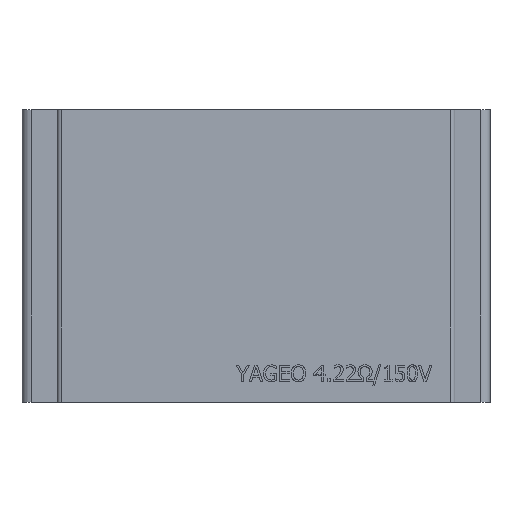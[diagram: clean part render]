
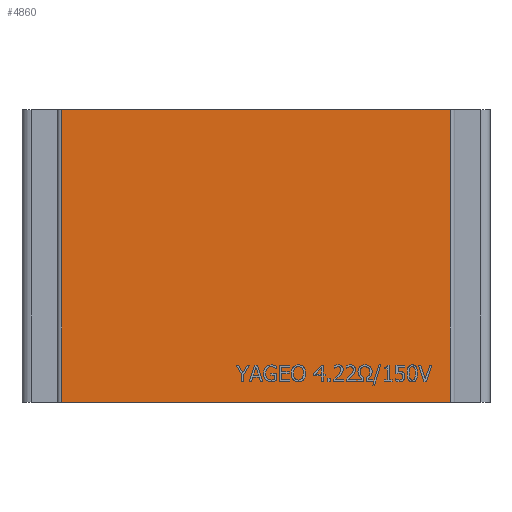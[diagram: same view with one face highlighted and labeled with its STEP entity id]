
A CAD part, top view. The second image highlights one B-rep face of the part: STEP entity #4860.
In plain terms, the highlighted planar face has unit normal (0, 0, 1).
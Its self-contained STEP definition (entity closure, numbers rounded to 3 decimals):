
#392=PLANE('',#5189);
#579=FACE_OUTER_BOUND('',#858,.T.);
#858=EDGE_LOOP('',(#3599,#3600,#3601,#3602));
#1169=LINE('',#6501,#1680);
#1173=LINE('',#6510,#1684);
#1181=LINE('',#6529,#1692);
#1193=LINE('',#6553,#1704);
#1680=VECTOR('',#5542,1.25);
#1684=VECTOR('',#5550,1.66);
#1692=VECTOR('',#5564,1.25);
#1704=VECTOR('',#5590,1.66);
#2210=VERTEX_POINT('',#6494);
#2213=VERTEX_POINT('',#6499);
#2216=VERTEX_POINT('',#6509);
#2223=VERTEX_POINT('',#6525);
#2727=EDGE_CURVE('',#2213,#2210,#1169,.T.);
#2731=EDGE_CURVE('',#2216,#2210,#1173,.T.);
#2741=EDGE_CURVE('',#2216,#2223,#1181,.T.);
#2753=EDGE_CURVE('',#2213,#2223,#1193,.T.);
#3599=ORIENTED_EDGE('',*,*,#2727,.F.);
#3600=ORIENTED_EDGE('',*,*,#2753,.T.);
#3601=ORIENTED_EDGE('',*,*,#2741,.F.);
#3602=ORIENTED_EDGE('',*,*,#2731,.T.);
#4860=ADVANCED_FACE('',(#579),#392,.T.);
#5189=AXIS2_PLACEMENT_3D('',#6554,#5591,#5592);
#5542=DIRECTION('',(0.,-1.,0.));
#5550=DIRECTION('',(1.,0.,0.));
#5564=DIRECTION('',(0.,1.,0.));
#5590=DIRECTION('',(-1.,0.,0.));
#5591=DIRECTION('center_axis',(0.,0.,1.));
#5592=DIRECTION('ref_axis',(1.,0.,0.));
#6494=CARTESIAN_POINT('',(0.83,-0.625,0.6));
#6499=CARTESIAN_POINT('',(0.83,0.625,0.6));
#6501=CARTESIAN_POINT('',(0.83,-0.313,0.6));
#6509=CARTESIAN_POINT('',(-0.83,-0.625,0.6));
#6510=CARTESIAN_POINT('',(-1.,-0.625,0.6));
#6525=CARTESIAN_POINT('',(-0.83,0.625,0.6));
#6529=CARTESIAN_POINT('',(-0.83,-0.313,0.6));
#6553=CARTESIAN_POINT('',(1.,0.625,0.6));
#6554=CARTESIAN_POINT('Origin',(0.,0.,0.6));
